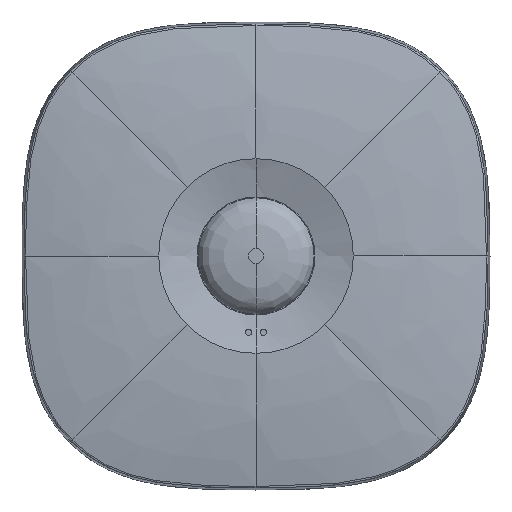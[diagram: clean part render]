
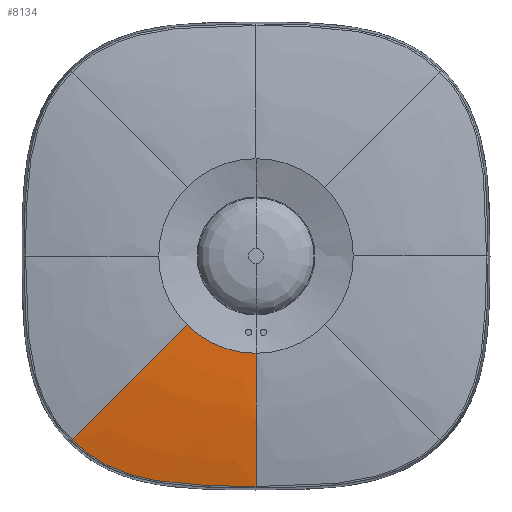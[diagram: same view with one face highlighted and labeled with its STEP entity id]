
A CAD part, front view. The second image highlights one B-rep face of the part: STEP entity #8134.
In plain terms, the highlighted free-form (B-spline) face has degree [5, 5] with [10, 6] control points.
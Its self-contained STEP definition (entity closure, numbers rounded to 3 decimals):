
#173=CARTESIAN_POINT('',(-48.369,-3.368,
-48.369));
#174=CARTESIAN_POINT('',(-47.936,-3.368,
-48.803));
#175=CARTESIAN_POINT('',(-47.023,-3.369,
-49.668));
#176=CARTESIAN_POINT('',(-45.604,-3.369,
-50.883));
#177=CARTESIAN_POINT('',(-43.877,-3.369,
-52.201));
#178=CARTESIAN_POINT('',(-41.894,-3.369,
-53.518));
#179=CARTESIAN_POINT('',(-39.585,-3.37,
-54.828));
#180=CARTESIAN_POINT('',(-36.86,-3.371,
-56.102));
#181=CARTESIAN_POINT('',(-33.726,-3.373,
-57.267));
#182=CARTESIAN_POINT('',(-30.058,-3.374,
-58.308));
#183=CARTESIAN_POINT('',(-25.895,-3.376,
-59.151));
#184=CARTESIAN_POINT('',(-21.977,-3.377,
-59.693));
#185=CARTESIAN_POINT('',(-18.59,-3.378,
-60.021));
#186=CARTESIAN_POINT('',(-15.608,-3.379,
-60.226));
#187=CARTESIAN_POINT('',(-12.878,-3.379,
-60.359));
#188=CARTESIAN_POINT('',(-10.229,-3.38,
-60.451));
#189=CARTESIAN_POINT('',(-7.268,-3.38,
-60.517));
#190=CARTESIAN_POINT('',(-3.912,-3.38,
-60.559));
#191=CARTESIAN_POINT('',(-1.36,-3.38,
-60.571));
#192=CARTESIAN_POINT('',(0.,-3.38,
-60.576));
#194=CARTESIAN_POINT('',(0.,-7.1,0.));
#195=DIRECTION('',(0.,1.,0.));
#196=DIRECTION('',(0.,0.,-1.));
#197=AXIS2_PLACEMENT_3D('',#194,#195,#196);
#232=CARTESIAN_POINT('',(0.,-3.38,
-60.576));
#233=CARTESIAN_POINT('',(0.,-5.827,
-49.078));
#234=CARTESIAN_POINT('',(0.,-7.076,-37.325));
#235=CARTESIAN_POINT('',(0.,-7.1,-25.57));
#519=CARTESIAN_POINT('',(-48.369,-3.368,
-48.369));
#531=CARTESIAN_POINT('',(-48.369,-3.368,
-48.369));
#532=CARTESIAN_POINT('',(-38.359,-5.823,
-38.359));
#533=CARTESIAN_POINT('',(-28.221,-7.076,
-28.221));
#534=CARTESIAN_POINT('',(-18.081,-7.1,
-18.081));
#6851=CARTESIAN_POINT('',(0.,-7.1,-25.57));
#6852=VERTEX_POINT('',#6851);
#6854=CARTESIAN_POINT('',(-18.081,-7.1,
-18.081));
#6856=VERTEX_POINT('',#6854);
#7177=VERTEX_POINT('',#519);
#7179=VERTEX_POINT('',#192);
#8064=CARTESIAN_POINT('',(-49.364,-3.295,
-47.955));
#8065=CARTESIAN_POINT('',(-43.096,-4.826,
-41.857));
#8066=CARTESIAN_POINT('',(-36.786,-5.977,
-35.718));
#8067=CARTESIAN_POINT('',(-30.448,-6.741,
-29.552));
#8068=CARTESIAN_POINT('',(-24.097,-7.115,
-23.373));
#8069=CARTESIAN_POINT('',(-17.746,-7.1,
-17.195));
#8070=CARTESIAN_POINT('',(-47.516,-3.295,
-49.908));
#8071=CARTESIAN_POINT('',(-41.468,-4.826,
-43.573));
#8072=CARTESIAN_POINT('',(-35.381,-5.977,
-37.195));
#8073=CARTESIAN_POINT('',(-29.267,-6.741,
-30.789));
#8074=CARTESIAN_POINT('',(-23.14,-7.115,
-24.369));
#8075=CARTESIAN_POINT('',(-17.013,-7.1,
-17.95));
#8076=CARTESIAN_POINT('',(-44.539,-3.295,
-52.52));
#8077=CARTESIAN_POINT('',(-38.856,-4.826,
-45.877));
#8078=CARTESIAN_POINT('',(-33.137,-5.977,
-39.188));
#8079=CARTESIAN_POINT('',(-27.394,-6.741,
-32.468));
#8080=CARTESIAN_POINT('',(-21.639,-7.115,
-25.734));
#8081=CARTESIAN_POINT('',(-15.885,-7.1,
-19.));
#8082=CARTESIAN_POINT('',(-40.218,-3.295,
-55.35));
#8083=CARTESIAN_POINT('',(-35.076,-4.826,
-48.401));
#8084=CARTESIAN_POINT('',(-29.903,-5.977,
-41.401));
#8085=CARTESIAN_POINT('',(-24.708,-6.741,
-34.369));
#8086=CARTESIAN_POINT('',(-19.502,-7.115,
-27.32));
#8087=CARTESIAN_POINT('',(-14.297,-7.1,
-20.272));
#8088=CARTESIAN_POINT('',(-33.298,-3.295,
-58.215));
#8089=CARTESIAN_POINT('',(-29.026,-4.826,
-51.031));
#8090=CARTESIAN_POINT('',(-24.728,-5.977,
-43.79));
#8091=CARTESIAN_POINT('',(-20.413,-6.741,
-36.512));
#8092=CARTESIAN_POINT('',(-16.089,-7.115,
-29.215));
#8093=CARTESIAN_POINT('',(-11.766,-7.1,
-21.919));
#8094=CARTESIAN_POINT('',(-23.4,-3.295,
-60.194));
#8095=CARTESIAN_POINT('',(-20.363,-4.826,
-52.96));
#8096=CARTESIAN_POINT('',(-17.308,-5.977,
-45.661));
#8097=CARTESIAN_POINT('',(-14.242,-6.741,
-38.319));
#8098=CARTESIAN_POINT('',(-11.17,-7.115,
-30.955));
#8099=CARTESIAN_POINT('',(-8.098,-7.1,
-23.592));
#8100=CARTESIAN_POINT('',(-15.689,-3.295,
-60.77));
#8101=CARTESIAN_POINT('',(-13.613,-4.826,
-53.592));
#8102=CARTESIAN_POINT('',(-11.527,-5.977,
-46.343));
#8103=CARTESIAN_POINT('',(-9.433,-6.741,
-39.047));
#8104=CARTESIAN_POINT('',(-7.335,-7.115,
-31.728));
#8105=CARTESIAN_POINT('',(-5.237,-7.1,
-24.409));
#8106=CARTESIAN_POINT('',(-8.722,-3.295,
-60.935));
#8107=CARTESIAN_POINT('',(-7.545,-4.826,
-53.805));
#8108=CARTESIAN_POINT('',(-6.362,-5.977,
-46.599));
#8109=CARTESIAN_POINT('',(-5.174,-6.741,
-39.342));
#8110=CARTESIAN_POINT('',(-3.985,-7.115,
-32.06));
#8111=CARTESIAN_POINT('',(-2.796,-7.1,
-24.779));
#8112=CARTESIAN_POINT('',(-2.677,-3.295,
-60.968));
#8113=CARTESIAN_POINT('',(-2.311,-4.826,
-53.856));
#8114=CARTESIAN_POINT('',(-1.942,-5.977,
-46.663));
#8115=CARTESIAN_POINT('',(-1.573,-6.741,
-39.416));
#8116=CARTESIAN_POINT('',(-1.203,-7.115,
-32.143));
#8117=CARTESIAN_POINT('',(-0.833,-7.1,
-24.87));
#8118=CARTESIAN_POINT('',(0.519,-3.295,
-60.978));
#8119=CARTESIAN_POINT('',(0.448,-4.826,
-53.864));
#8120=CARTESIAN_POINT('',(0.377,-5.977,
-46.669));
#8121=CARTESIAN_POINT('',(0.305,-6.741,
-39.418));
#8122=CARTESIAN_POINT('',(0.234,-7.115,
-32.14));
#8123=CARTESIAN_POINT('',(0.162,-7.1,
-24.863));
#8124=B_SPLINE_SURFACE_WITH_KNOTS('',5,5,((#8064,#8065,#8066,#8067,#8068,#8069),
(#8070,#8071,#8072,#8073,#8074,#8075),(#8076,#8077,#8078,#8079,#8080,#8081),(
#8082,#8083,#8084,#8085,#8086,#8087),(#8088,#8089,#8090,#8091,#8092,#8093),(
#8094,#8095,#8096,#8097,#8098,#8099),(#8100,#8101,#8102,#8103,#8104,#8105),(
#8106,#8107,#8108,#8109,#8110,#8111),(#8112,#8113,#8114,#8115,#8116,#8117),(
#8118,#8119,#8120,#8121,#8122,#8123)),.UNSPECIFIED.,.F.,.F.,.F.,(6,1,1,1,1,6),
(6,6),(0.49,0.625,0.688,0.75,0.875,1.004),(
-0.001,1.02),.UNSPECIFIED.);
#8126=ORIENTED_EDGE('',*,*,#8125,.F.);
#8128=ORIENTED_EDGE('',*,*,#8127,.T.);
#8129=ORIENTED_EDGE('',*,*,#8046,.F.);
#8131=ORIENTED_EDGE('',*,*,#8130,.F.);
#8132=EDGE_LOOP('',(#8126,#8128,#8129,#8131));
#8133=FACE_OUTER_BOUND('',#8132,.F.);
#8134=ADVANCED_FACE('',(#8133),#8124,.T.);
#193=B_SPLINE_CURVE_WITH_KNOTS('',3,(#173,#174,#175,#176,#177,#178,#179,#180,
#181,#182,#183,#184,#185,#186,#187,#188,#189,#190,#191,#192),.UNSPECIFIED.,.F.,
.F.,(4,1,1,1,1,1,1,1,1,1,1,1,1,1,1,1,1,4),(0.,0.059,
0.118,0.176,0.235,0.294,
0.353,0.412,0.471,0.529,
0.588,0.647,0.706,0.765,
0.824,0.882,0.941,1.),.UNSPECIFIED.);
#198=CIRCLE('',#197,25.57);
#236=B_SPLINE_CURVE_WITH_KNOTS('',3,(#232,#233,#234,#235),.UNSPECIFIED.,.F.,.F.,
(4,4),(0.,1.),.UNSPECIFIED.);
#535=B_SPLINE_CURVE_WITH_KNOTS('',3,(#531,#532,#533,#534),.UNSPECIFIED.,.F.,.F.,
(4,4),(0.,1.),.UNSPECIFIED.);
#8046=EDGE_CURVE('',#6852,#6856,#198,.T.);
#8125=EDGE_CURVE('',#7177,#7179,#193,.T.);
#8127=EDGE_CURVE('',#7177,#6856,#535,.T.);
#8130=EDGE_CURVE('',#7179,#6852,#236,.T.);
